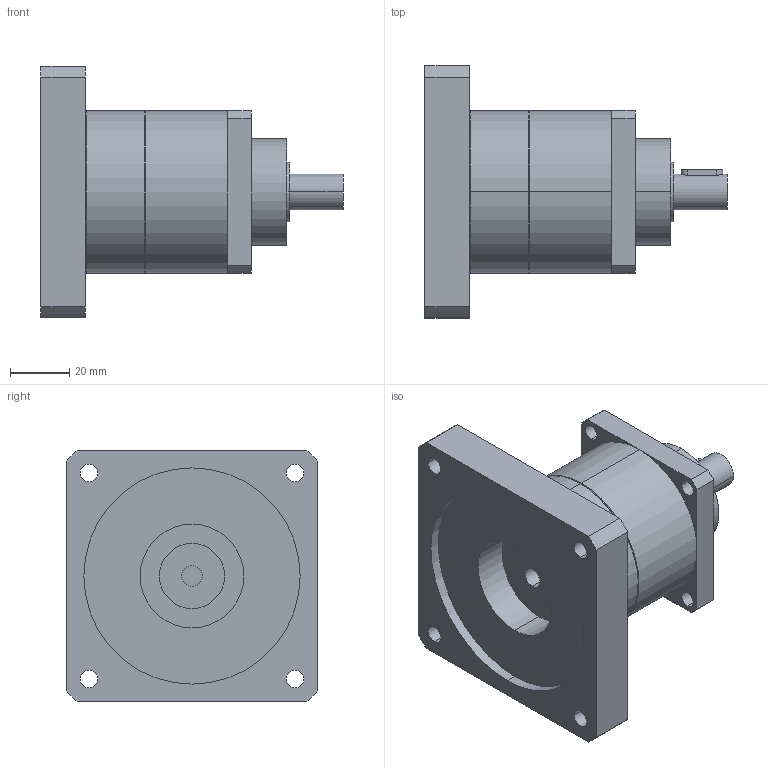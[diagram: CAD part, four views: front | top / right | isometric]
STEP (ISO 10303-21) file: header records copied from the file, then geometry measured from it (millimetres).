
FILE_DESCRIPTION(('CoCreate Modeling STEP Export'),'2;1');
FILE_NAME('GPT55_ig-3-4-5-7-10_12_B5A_7_P36.stp','2014-08-25T14:33:57',(''),(''),'CoCreate Modeling STEP processor for AP214 (Solid Model)','CoCreate Modeling 16.00C 25-Feb-2009 (C) Parametric Technology GmbH','');
FILE_SCHEMA(('AUTOMOTIVE_DESIGN { 1 0 10303 214 1 1 1 1 }'));
Length unit declared in the file: millimetre
Products named in the file (2): GPT55_ig-3-4-5-7-10_12_B5A_7_P36
Assembly tree (1 placements, depth 2):
  GPT55_ig-3-4-5-7-10_12_B5A_7_P36
    GPT55_ig-3-4-5-7-10_12_B5A_7_P36
Bounding box: 102 x 85 x 85 mm (x, y, z)
Volume: 232670.2 mm3; surface area: 37108.7 mm2
Topology: 1 solids, 1 shells, 77 faces, 204 edges, 139 vertices
Faces by surface type: cylinder 46, plane 27, cone 4
Entity records: 2515 total; most frequent: CARTESIAN_POINT 710, ORIENTED_EDGE 408, DIRECTION 318, EDGE_CURVE 204, VERTEX_POINT 139, AXIS2_PLACEMENT_3D 117, EDGE_LOOP 103, VECTOR 84
